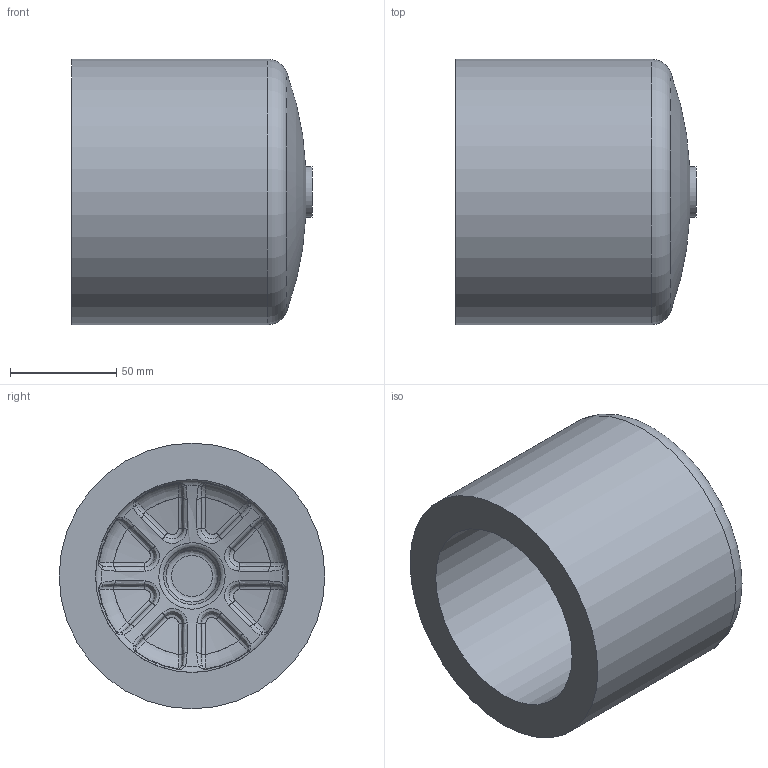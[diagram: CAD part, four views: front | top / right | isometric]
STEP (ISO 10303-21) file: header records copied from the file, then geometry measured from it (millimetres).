
FILE_DESCRIPTION(/* description */ ('Unknown'),/* implementation_level */ '2;1');
FILE_NAME(/* name */ 'CAP125H',/* time_stamp */ '2022-04-01T15:16:50+02:00',/* author */ ('Unknown'),/* organization */ ('Unknown'),/* preprocessor_version */ 'ST-DEVELOPER v18.1',/* originating_system */ 'Solid Edge',/* authorisation */ 'Unknown');
FILE_SCHEMA (('AUTOMOTIVE_DESIGN {1 0 10303 214 3 1 1}'));
Length unit declared in the file: millimetre
Products named in the file (1): CAP125H
Bounding box: 113 x 125 x 125 mm (x, y, z)
Volume: 709992.4 mm3; surface area: 87972.6 mm2
Topology: 1 solids, 1 shells, 175 faces, 398 edges, 226 vertices
Faces by surface type: bspline 96, torus 46, sphere 26, plane 3, cylinder 3, cone 1
Full cylindrical faces by diameter (mm): 24 x1, 90.8 x1, 125 x1
Entity records: 6206 total; most frequent: CARTESIAN_POINT 2887, ORIENTED_EDGE 760, DIRECTION 614, EDGE_CURVE 380, AXIS2_PLACEMENT_3D 307, CIRCLE 228, VERTEX_POINT 220, EDGE_LOOP 186
